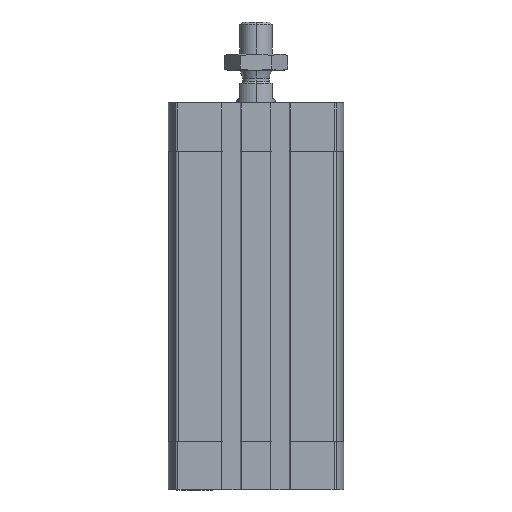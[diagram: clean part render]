
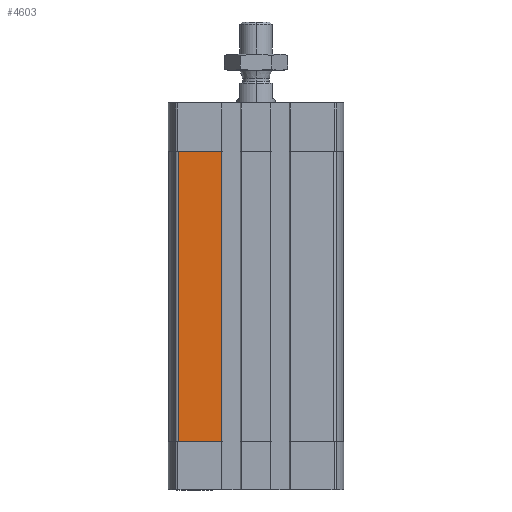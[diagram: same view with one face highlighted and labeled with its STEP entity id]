
A CAD part, left-side view. The second image highlights one B-rep face of the part: STEP entity #4603.
In plain terms, the highlighted planar face has unit normal (-1, 0, 0).
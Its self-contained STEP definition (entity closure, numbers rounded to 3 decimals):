
#937 = DIRECTION ( 'NONE',  ( 0., 1., 0. ) ) ;
#1669 = DIRECTION ( 'NONE',  ( 0., 0., 1. ) ) ;
#1734 = DIRECTION ( 'NONE',  ( -1., 0., 0. ) ) ;
#1839 = VECTOR ( 'NONE', #11028, 1000. ) ;
#1892 = VERTEX_POINT ( 'NONE', #12317 ) ;
#3987 = LINE ( 'NONE', #9236, #10317 ) ;
#4529 = CARTESIAN_POINT ( 'NONE',  ( -27., 10.7, -15. ) ) ;
#4603 = ADVANCED_FACE ( 'NONE', ( #14099 ), #14318, .T. ) ;
#4924 = VERTEX_POINT ( 'NONE', #11252 ) ;
#5614 = EDGE_CURVE ( 'NONE', #10012, #4924, #7629, .T. ) ;
#5701 = AXIS2_PLACEMENT_3D ( 'NONE', #13095, #1734, #6796 ) ;
#6236 = EDGE_CURVE ( 'NONE', #1892, #7677, #8979, .T. ) ;
#6526 = ORIENTED_EDGE ( 'NONE', *, *, #6236, .T. ) ;
#6796 = DIRECTION ( 'NONE',  ( 0., 0., 1. ) ) ;
#7512 = EDGE_CURVE ( 'NONE', #4924, #1892, #11893, .T. ) ;
#7629 = LINE ( 'NONE', #15998, #8020 ) ;
#7677 = VERTEX_POINT ( 'NONE', #12713 ) ;
#8020 = VECTOR ( 'NONE', #937, 1000. ) ;
#8410 = EDGE_LOOP ( 'NONE', ( #6526, #13091, #14809, #14333 ) ) ;
#8584 = CARTESIAN_POINT ( 'NONE',  ( -27., 24.093, -105. ) ) ;
#8979 = LINE ( 'NONE', #13087, #15228 ) ;
#9236 = CARTESIAN_POINT ( 'NONE',  ( -27., 10.7, -105. ) ) ;
#10012 = VERTEX_POINT ( 'NONE', #4529 ) ;
#10317 = VECTOR ( 'NONE', #1669, 1000. ) ;
#11028 = DIRECTION ( 'NONE',  ( 0., 0., -1. ) ) ;
#11252 = CARTESIAN_POINT ( 'NONE',  ( -27., 24.093, -15. ) ) ;
#11810 = DIRECTION ( 'NONE',  ( 0., -1., 0. ) ) ;
#11893 = LINE ( 'NONE', #8584, #1839 ) ;
#12317 = CARTESIAN_POINT ( 'NONE',  ( -27., 24.093, -105. ) ) ;
#12553 = EDGE_CURVE ( 'NONE', #7677, #10012, #3987, .T. ) ;
#12713 = CARTESIAN_POINT ( 'NONE',  ( -27., 10.7, -105. ) ) ;
#13087 = CARTESIAN_POINT ( 'NONE',  ( -27., 24.093, -105. ) ) ;
#13091 = ORIENTED_EDGE ( 'NONE', *, *, #12553, .T. ) ;
#13095 = CARTESIAN_POINT ( 'NONE',  ( -27., 24.093, -105. ) ) ;
#14099 = FACE_OUTER_BOUND ( 'NONE', #8410, .T. ) ;
#14318 = PLANE ( 'NONE',  #5701 ) ;
#14333 = ORIENTED_EDGE ( 'NONE', *, *, #7512, .T. ) ;
#14809 = ORIENTED_EDGE ( 'NONE', *, *, #5614, .T. ) ;
#15228 = VECTOR ( 'NONE', #11810, 1000. ) ;
#15998 = CARTESIAN_POINT ( 'NONE',  ( -27., 0., -15. ) ) ;
